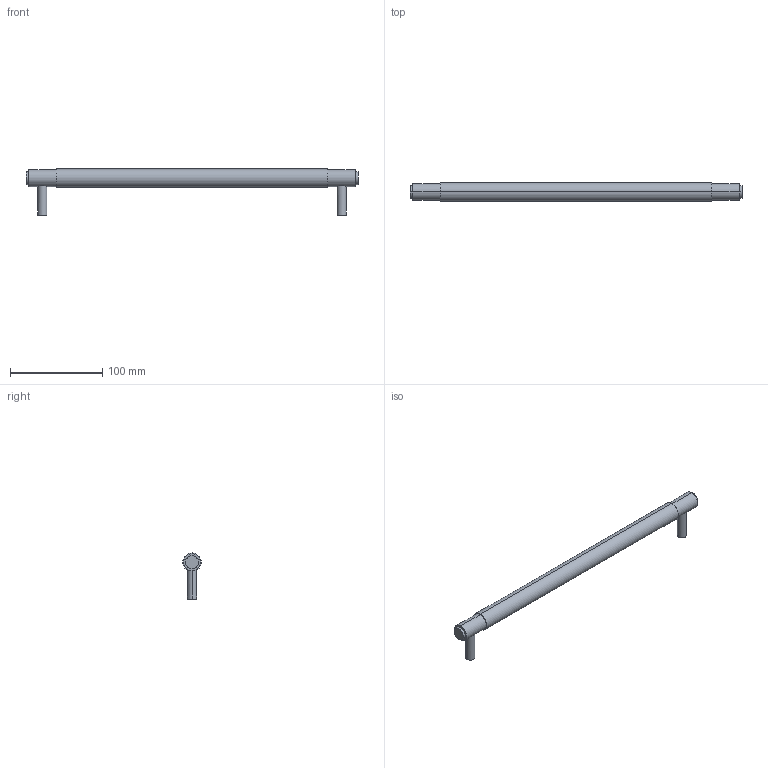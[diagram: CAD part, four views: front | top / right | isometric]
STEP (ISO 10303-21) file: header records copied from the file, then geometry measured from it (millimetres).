
FILE_DESCRIPTION (( 'STEP AP203' ), '1' );
FILE_NAME ('Pull Bar 400.STEP', '2016-10-12T14:05:36', ( '' ), ( '' ), 'SwSTEP 2.0', 'SolidWorks 2014', '' );
FILE_SCHEMA (( 'CONFIG_CONTROL_DESIGN' ));
Length unit declared in the file: millimetre
Products named in the file (1): Pull Bar 400
Bounding box: 360 x 20 x 50 mm (x, y, z)
Volume: 114134.1 mm3; surface area: 24807.1 mm2
Topology: 1 solids, 1 shells, 22 faces, 44 edges, 28 vertices
Faces by surface type: cylinder 14, plane 8
Entity records: 797 total; most frequent: CARTESIAN_POINT 243, DIRECTION 110, ORIENTED_EDGE 88, AXIS2_PLACEMENT_3D 47, EDGE_CURVE 44, VERTEX_POINT 28, EDGE_LOOP 26, CIRCLE 24
